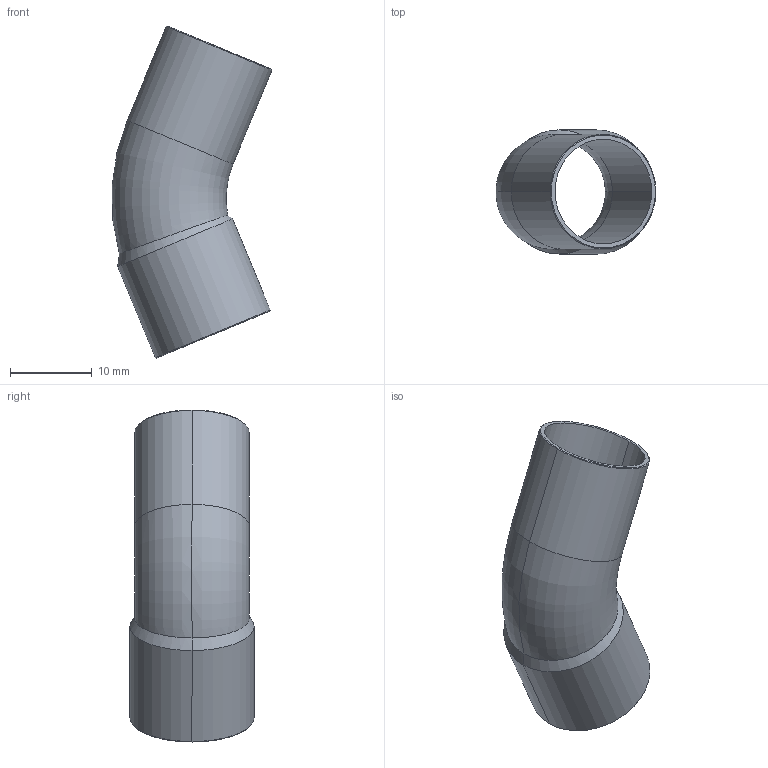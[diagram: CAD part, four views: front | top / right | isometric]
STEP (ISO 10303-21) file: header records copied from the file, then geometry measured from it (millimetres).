
FILE_DESCRIPTION((''),'2;1');
FILE_NAME('P:\Bouwmaten\z-maattekeningen 3D\5000\5040\1504014.stp','2005-10-05T11:07:48',('Kris'),(''),'Autodesk Inventor 8','Autodesk Inventor 8','');
FILE_SCHEMA(('AUTOMOTIVE_DESIGN { 1 0 10303 214 1 1 1 1 }'));
Length unit declared in the file: millimetre
Products named in the file (1): 1504014
Bounding box: 19.56 x 15.2 x 40.62 mm (x, y, z)
Volume: 972.1 mm3; surface area: 3287.2 mm2
Topology: 1 solids, 1 shells, 24 faces, 50 edges, 28 vertices
Faces by surface type: cone 10, cylinder 8, torus 4, plane 2
Entity records: 729 total; most frequent: CARTESIAN_POINT 179, DIRECTION 124, ORIENTED_EDGE 100, AXIS2_PLACEMENT_3D 53, EDGE_CURVE 50, VERTEX_POINT 28, CIRCLE 28, EDGE_LOOP 26
